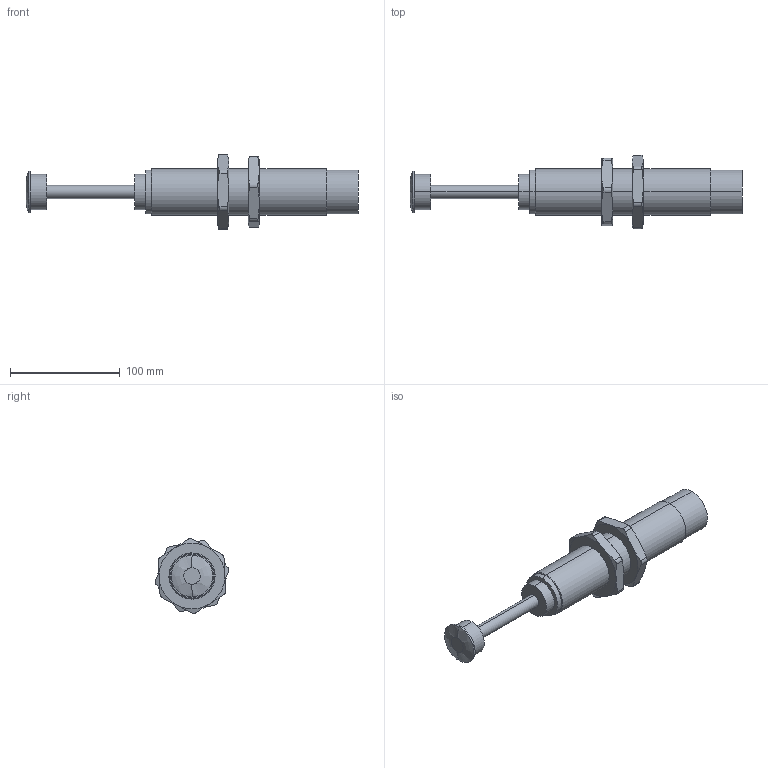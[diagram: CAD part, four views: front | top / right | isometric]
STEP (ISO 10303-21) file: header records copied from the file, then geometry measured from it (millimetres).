
FILE_DESCRIPTION (( 'STEP AP203' ), '1' );
FILE_NAME ('FSA-4280CC(CD).STEP', '2016-03-17T07:52:05', ( 'Sam Lin' ), ( '' ), 'SwSTEP 2.0', 'SolidWorks 2013', '' );
FILE_SCHEMA (( 'CONFIG_CONTROL_DESIGN' ));
Length unit declared in the file: metre
Products named in the file (3): FSA-4280CC(CD); FSA-4280CC(CD)_1; M42x1.5-10mm_1
Assembly tree (3 placements, depth 2):
  FSA-4280CC(CD)
    FSA-4280CC(CD)_1
    M42x1.5-10mm_1  x2
Bounding box: 302.5 x 67.01 x 67.95 mm (x, y, z)
Volume: 330593.7 mm3; surface area: 49138.3 mm2
Topology: 3 solids, 3 shells, 84 faces, 188 edges, 116 vertices
Faces by surface type: cylinder 30, bspline 26, plane 24, cone 4
Entity records: 2263 total; most frequent: CARTESIAN_POINT 842, ORIENTED_EDGE 244, DIRECTION 204, EDGE_CURVE 122, AXIS2_PLACEMENT_3D 86, VERTEX_POINT 76, EDGE_LOOP 64, FACE_OUTER_BOUND 56
